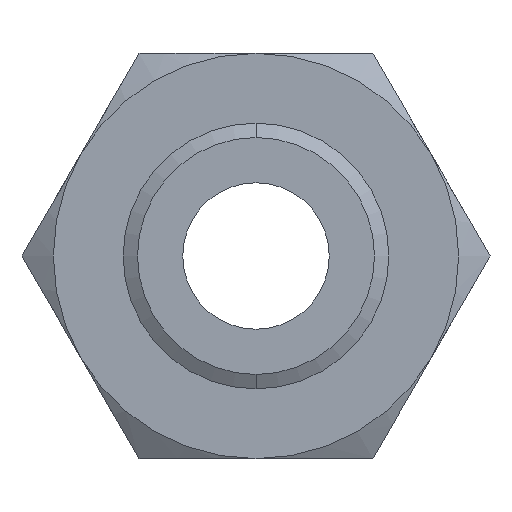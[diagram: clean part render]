
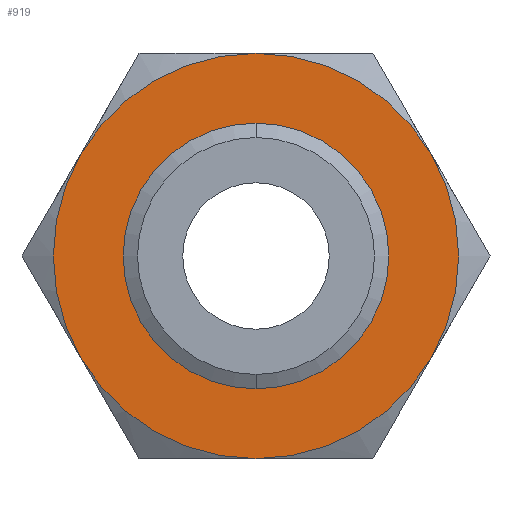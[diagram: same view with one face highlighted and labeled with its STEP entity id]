
A CAD part, front view. The second image highlights one B-rep face of the part: STEP entity #919.
In plain terms, the highlighted planar face has unit normal (0, -1, 0).
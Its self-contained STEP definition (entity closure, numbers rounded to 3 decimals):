
#159 = VERTEX_POINT ( 'NONE', #1342 ) ;
#161 = VERTEX_POINT ( 'NONE', #1339 ) ;
#183 = EDGE_CURVE ( 'NONE', #159, #161, #1395, .T. ) ;
#406 = ORIENTED_EDGE ( 'NONE', *, *, #183, .F. ) ;
#407 = ORIENTED_EDGE ( 'NONE', *, *, #409, .F. ) ;
#408 = EDGE_LOOP ( 'NONE', ( #406, #407 ) ) ;
#409 = EDGE_CURVE ( 'NONE', #161, #159, #1950, .T. ) ;
#414 = EDGE_CURVE ( 'NONE', #531, #415, #1940, .T. ) ;
#415 = VERTEX_POINT ( 'NONE', #1935 ) ;
#417 = ORIENTED_EDGE ( 'NONE', *, *, #414, .F. ) ;
#425 = EDGE_CURVE ( 'NONE', #415, #579, #1981, .T. ) ;
#520 = ORIENTED_EDGE ( 'NONE', *, *, #608, .F. ) ;
#521 = EDGE_CURVE ( 'NONE', #564, #531, #2129, .T. ) ;
#527 = VERTEX_POINT ( 'NONE', #2176 ) ;
#531 = VERTEX_POINT ( 'NONE', #2171 ) ;
#535 = VERTEX_POINT ( 'NONE', #2167 ) ;
#541 = ORIENTED_EDGE ( 'NONE', *, *, #542, .F. ) ;
#542 = EDGE_CURVE ( 'NONE', #535, #564, #2161, .T. ) ;
#564 = VERTEX_POINT ( 'NONE', #2247 ) ;
#578 = EDGE_CURVE ( 'NONE', #527, #535, #2225, .T. ) ;
#579 = VERTEX_POINT ( 'NONE', #2226 ) ;
#584 = ORIENTED_EDGE ( 'NONE', *, *, #578, .F. ) ;
#585 = ORIENTED_EDGE ( 'NONE', *, *, #425, .F. ) ;
#608 = EDGE_CURVE ( 'NONE', #579, #527, #2301, .T. ) ;
#909 = EDGE_LOOP ( 'NONE', ( #913, #541, #584, #520, #585, #417 ) ) ;
#913 = ORIENTED_EDGE ( 'NONE', *, *, #521, .F. ) ;
#919 = ADVANCED_FACE ( 'NONE', ( #2814, #2810 ), #2807, .F. ) ;
#1339 = CARTESIAN_POINT ( 'NONE',  ( 0., 0., 45.301 ) ) ;
#1342 = CARTESIAN_POINT ( 'NONE',  ( 0., 0., -45.301 ) ) ;
#1391 = DIRECTION ( 'NONE',  ( 0., 0., -1. ) ) ;
#1392 = DIRECTION ( 'NONE',  ( 0., -1., 0. ) ) ;
#1393 = CARTESIAN_POINT ( 'NONE',  ( 0., 0., 0. ) ) ;
#1394 = AXIS2_PLACEMENT_3D ( 'NONE', #1393, #1392, #1391 ) ;
#1395 = CIRCLE ( 'NONE', #1394, 45.301 ) ;
#1935 = CARTESIAN_POINT ( 'NONE',  ( 67.117, 0., -38.75 ) ) ;
#1936 = DIRECTION ( 'NONE',  ( 0., 0., 1. ) ) ;
#1937 = DIRECTION ( 'NONE',  ( 0., 1., 0. ) ) ;
#1938 = CARTESIAN_POINT ( 'NONE',  ( 0., 0., 0. ) ) ;
#1939 = AXIS2_PLACEMENT_3D ( 'NONE', #1938, #1937, #1936 ) ;
#1940 = CIRCLE ( 'NONE', #1939, 77.5 ) ;
#1947 = DIRECTION ( 'NONE',  ( 0., 0., -1. ) ) ;
#1948 = DIRECTION ( 'NONE',  ( 0., -1., 0. ) ) ;
#1949 = AXIS2_PLACEMENT_3D ( 'NONE', #1956, #1948, #1947 ) ;
#1950 = CIRCLE ( 'NONE', #1949, 45.301 ) ;
#1956 = CARTESIAN_POINT ( 'NONE',  ( 0., 0., 0. ) ) ;
#1974 = DIRECTION ( 'NONE',  ( 0., 0., 1. ) ) ;
#1975 = DIRECTION ( 'NONE',  ( 0., 1., 0. ) ) ;
#1976 = CARTESIAN_POINT ( 'NONE',  ( 0., 0., 0. ) ) ;
#1977 = AXIS2_PLACEMENT_3D ( 'NONE', #1976, #1975, #1974 ) ;
#1981 = CIRCLE ( 'NONE', #1977, 77.5 ) ;
#2125 = DIRECTION ( 'NONE',  ( 0., 0., 1. ) ) ;
#2126 = DIRECTION ( 'NONE',  ( 0., 1., 0. ) ) ;
#2127 = CARTESIAN_POINT ( 'NONE',  ( 0., 0., 0. ) ) ;
#2128 = AXIS2_PLACEMENT_3D ( 'NONE', #2127, #2126, #2125 ) ;
#2129 = CIRCLE ( 'NONE', #2128, 77.5 ) ;
#2157 = DIRECTION ( 'NONE',  ( 0., 0., 1. ) ) ;
#2158 = DIRECTION ( 'NONE',  ( 0., 1., 0. ) ) ;
#2159 = CARTESIAN_POINT ( 'NONE',  ( 0., 0., 0. ) ) ;
#2160 = AXIS2_PLACEMENT_3D ( 'NONE', #2159, #2158, #2157 ) ;
#2161 = CIRCLE ( 'NONE', #2160, 77.5 ) ;
#2167 = CARTESIAN_POINT ( 'NONE',  ( -67.117, 0., 38.75 ) ) ;
#2171 = CARTESIAN_POINT ( 'NONE',  ( 67.117, 0., 38.75 ) ) ;
#2176 = CARTESIAN_POINT ( 'NONE',  ( -67.117, 0., -38.75 ) ) ;
#2221 = DIRECTION ( 'NONE',  ( 0., 0., 1. ) ) ;
#2222 = DIRECTION ( 'NONE',  ( 0., 1., 0. ) ) ;
#2223 = CARTESIAN_POINT ( 'NONE',  ( 0., 0., 0. ) ) ;
#2224 = AXIS2_PLACEMENT_3D ( 'NONE', #2223, #2222, #2221 ) ;
#2225 = CIRCLE ( 'NONE', #2224, 77.5 ) ;
#2226 = CARTESIAN_POINT ( 'NONE',  ( 0., 0., -77.5 ) ) ;
#2247 = CARTESIAN_POINT ( 'NONE',  ( 0., 0., 77.5 ) ) ;
#2297 = DIRECTION ( 'NONE',  ( 0., 0., 1. ) ) ;
#2298 = DIRECTION ( 'NONE',  ( 0., 1., 0. ) ) ;
#2299 = CARTESIAN_POINT ( 'NONE',  ( 0., 0., 0. ) ) ;
#2300 = AXIS2_PLACEMENT_3D ( 'NONE', #2299, #2298, #2297 ) ;
#2301 = CIRCLE ( 'NONE', #2300, 77.5 ) ;
#2807 = PLANE ( 'NONE',  #2809 ) ;
#2808 = CARTESIAN_POINT ( 'NONE',  ( 44.745, 0., -77.5 ) ) ;
#2809 = AXIS2_PLACEMENT_3D ( 'NONE', #2808, #2875, #2874 ) ;
#2810 = FACE_BOUND ( 'NONE', #408, .T. ) ;
#2814 = FACE_OUTER_BOUND ( 'NONE', #909, .T. ) ;
#2874 = DIRECTION ( 'NONE',  ( 0., 0., 1. ) ) ;
#2875 = DIRECTION ( 'NONE',  ( 0., 1., 0. ) ) ;
